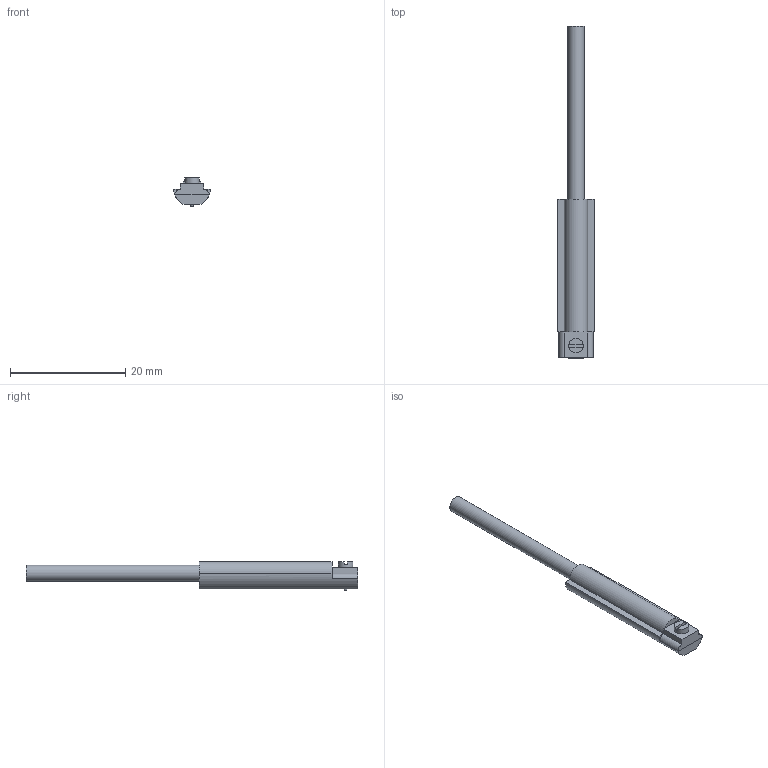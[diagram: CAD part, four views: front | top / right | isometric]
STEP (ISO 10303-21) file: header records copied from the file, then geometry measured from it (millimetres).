
FILE_DESCRIPTION(('FreeCAD Model'),'2;1');
FILE_NAME('Open CASCADE Shape Model','2025-09-17T10:47:53',(''),(''), 'Open CASCADE STEP processor 7.6','FreeCAD','Unknown');
FILE_SCHEMA(('AUTOMOTIVE_DESIGN { 1 0 10303 214 1 1 1 1 }'));
Length unit declared in the file: millimetre
Products named in the file (1): ZYTO-07
Bounding box: 6.29 x 57.5 x 5 mm (x, y, z)
Volume: 741.6 mm3; surface area: 807.9 mm2
Topology: 1 solids, 1 shells, 31 faces, 68 edges, 41 vertices
Faces by surface type: plane 23, cylinder 7, cone 1
Full cylindrical faces by diameter (mm): 2.5 x1, 2.8 x1
Entity records: 864 total; most frequent: DIRECTION 156, CARTESIAN_POINT 143, ORIENTED_EDGE 136, EDGE_CURVE 68, AXIS2_PLACEMENT_3D 58, VERTEX_POINT 41, LINE 40, VECTOR 40
